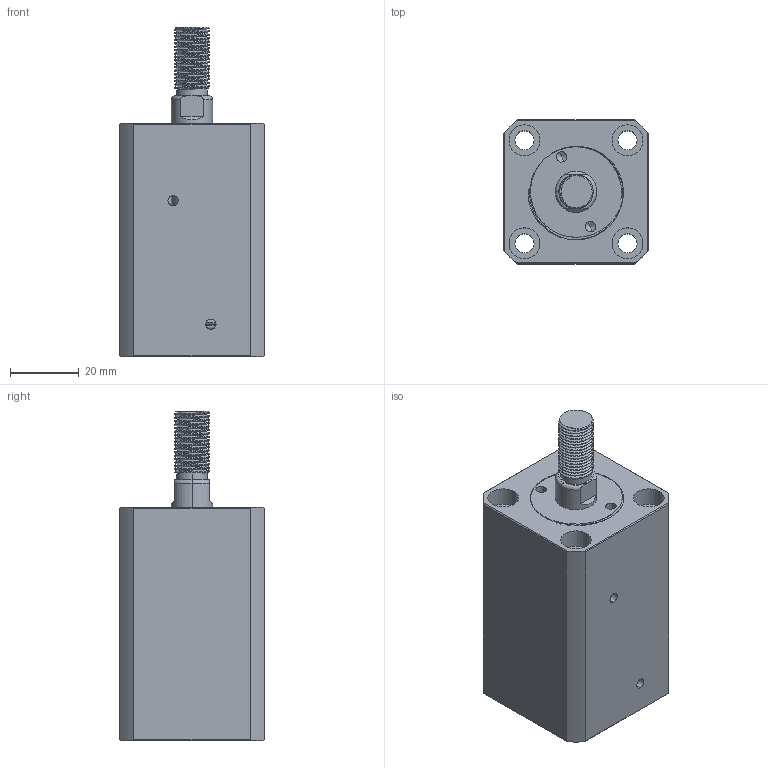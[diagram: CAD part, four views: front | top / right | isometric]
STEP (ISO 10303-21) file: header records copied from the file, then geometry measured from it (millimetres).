
FILE_DESCRIPTION (( 'STEP AP214' ), '1' );
FILE_NAME ('chtb-sdmb20x25w_asm.STEP', '2018-05-18T08:33:48', ( 'Windows' ), ( 'Microsoft' ), 'SwSTEP 2.0', 'SolidWorks 2015', '' );
FILE_SCHEMA (( 'AUTOMOTIVE_DESIGN' ));
Length unit declared in the file: millimetre
Products named in the file (4): QG_3; CHTB-SDMB20X25WHSG; CHTB-SDMB20X25NBT; chtb-sdmb20x25w_asm
Assembly tree (3 placements, depth 2):
  chtb-sdmb20x25w_asm
    CHTB-SDMB20X25NBT
    CHTB-SDMB20X25WHSG
    QG_3
Bounding box: 42 x 42 x 96 mm (x, y, z)
Volume: 104901.6 mm3; surface area: 33385.6 mm2
Topology: 3 solids, 3 shells, 243 faces, 660 edges, 439 vertices
Faces by surface type: cylinder 143, plane 47, torus 25, bspline 23, cone 5
Entity records: 14768 total; most frequent: CARTESIAN_POINT 8984, ORIENTED_EDGE 1312, DIRECTION 1058, EDGE_CURVE 656, VERTEX_POINT 439, AXIS2_PLACEMENT_3D 434, EDGE_LOOP 281, ADVANCED_FACE 243
